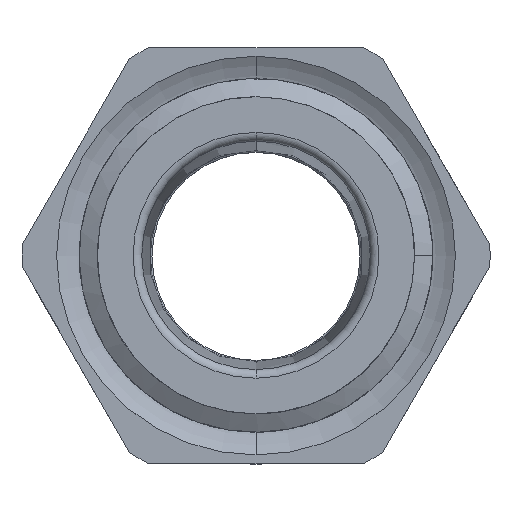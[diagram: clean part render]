
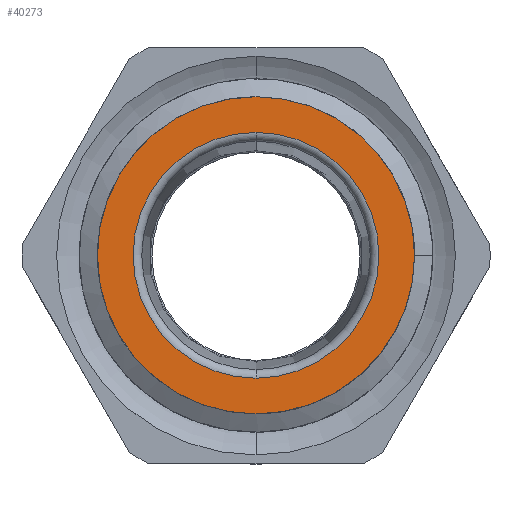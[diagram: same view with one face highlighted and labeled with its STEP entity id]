
A CAD part, top view. The second image highlights one B-rep face of the part: STEP entity #40273.
In plain terms, the highlighted planar face has unit normal (0, 0, 1) as drawn and (0, -1, 0) by its records, which use the part's own axes.
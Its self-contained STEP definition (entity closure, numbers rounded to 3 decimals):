
#1569 = CARTESIAN_POINT ( 'NONE',  ( 0., 0., 0. ) ) ;
#1757 = DIRECTION ( 'NONE',  ( 0., 0., -1. ) ) ;
#2033 = DIRECTION ( 'NONE',  ( 0., 0., -1. ) ) ;
#2469 = CARTESIAN_POINT ( 'NONE',  ( 9.15, 0., 0. ) ) ;
#3818 = CARTESIAN_POINT ( 'NONE',  ( 0., 0., -9.15 ) ) ;
#4026 = FACE_OUTER_BOUND ( 'NONE', #45805, .T. ) ;
#6335 = AXIS2_PLACEMENT_3D ( 'NONE', #1569, #27097, #2033 ) ;
#8886 = DIRECTION ( 'NONE',  ( 0., -1., 0. ) ) ;
#10047 = EDGE_CURVE ( 'NONE', #19152, #44446, #36415, .T. ) ;
#10337 = CARTESIAN_POINT ( 'NONE',  ( 0., 0., 0. ) ) ;
#12691 = DIRECTION ( 'NONE',  ( 0., -1., 0. ) ) ;
#12991 = AXIS2_PLACEMENT_3D ( 'NONE', #22987, #12691, #41085 ) ;
#13630 = DIRECTION ( 'NONE',  ( 0., -1., 0. ) ) ;
#13683 = ORIENTED_EDGE ( 'NONE', *, *, #10047, .F. ) ;
#13686 = CIRCLE ( 'NONE', #33649, 9.15 ) ;
#13869 = CIRCLE ( 'NONE', #36386, 9.15 ) ;
#14572 = VERTEX_POINT ( 'NONE', #2469 ) ;
#17681 = DIRECTION ( 'NONE',  ( 0., -1., 0. ) ) ;
#18006 = FACE_BOUND ( 'NONE', #27435, .T. ) ;
#18011 = CIRCLE ( 'NONE', #30290, 9.15 ) ;
#18030 = EDGE_CURVE ( 'NONE', #14572, #45406, #13686, .T. ) ;
#19152 = VERTEX_POINT ( 'NONE', #32409 ) ;
#21571 = DIRECTION ( 'NONE',  ( 0., 0., -1. ) ) ;
#22337 = ORIENTED_EDGE ( 'NONE', *, *, #28142, .T. ) ;
#22987 = CARTESIAN_POINT ( 'NONE',  ( 7.09, 0., 0. ) ) ;
#24361 = DIRECTION ( 'NONE',  ( 0., 0., -1. ) ) ;
#27097 = DIRECTION ( 'NONE',  ( 0., -1., 0. ) ) ;
#27435 = EDGE_LOOP ( 'NONE', ( #13683, #32434 ) ) ;
#27616 = DIRECTION ( 'NONE',  ( 0., -1., 0. ) ) ;
#28142 = EDGE_CURVE ( 'NONE', #41467, #14572, #18011, .T. ) ;
#30290 = AXIS2_PLACEMENT_3D ( 'NONE', #40744, #8886, #1757 ) ;
#32118 = EDGE_CURVE ( 'NONE', #45406, #41467, #13869, .T. ) ;
#32409 = CARTESIAN_POINT ( 'NONE',  ( 0., 0., -7.09 ) ) ;
#32434 = ORIENTED_EDGE ( 'NONE', *, *, #42194, .F. ) ;
#33649 = AXIS2_PLACEMENT_3D ( 'NONE', #10337, #17681, #21571 ) ;
#34042 = ORIENTED_EDGE ( 'NONE', *, *, #18030, .T. ) ;
#34924 = CARTESIAN_POINT ( 'NONE',  ( 0., 0., 7.09 ) ) ;
#35000 = CARTESIAN_POINT ( 'NONE',  ( 0., 0., 0. ) ) ;
#36386 = AXIS2_PLACEMENT_3D ( 'NONE', #42152, #27616, #24361 ) ;
#36415 = CIRCLE ( 'NONE', #6335, 7.09 ) ;
#38133 = DIRECTION ( 'NONE',  ( 0., 0., -1. ) ) ;
#39640 = CIRCLE ( 'NONE', #40805, 7.09 ) ;
#40273 = ADVANCED_FACE ( 'NONE', ( #4026, #18006 ), #44664, .T. ) ;
#40744 = CARTESIAN_POINT ( 'NONE',  ( 0., 0., 0. ) ) ;
#40805 = AXIS2_PLACEMENT_3D ( 'NONE', #35000, #13630, #38133 ) ;
#41085 = DIRECTION ( 'NONE',  ( 0., 0., -1. ) ) ;
#41249 = CARTESIAN_POINT ( 'NONE',  ( 0., 0., 9.15 ) ) ;
#41467 = VERTEX_POINT ( 'NONE', #3818 ) ;
#42152 = CARTESIAN_POINT ( 'NONE',  ( 0., 0., 0. ) ) ;
#42194 = EDGE_CURVE ( 'NONE', #44446, #19152, #39640, .T. ) ;
#44446 = VERTEX_POINT ( 'NONE', #34924 ) ;
#44664 = PLANE ( 'NONE',  #12991 ) ;
#45406 = VERTEX_POINT ( 'NONE', #41249 ) ;
#45805 = EDGE_LOOP ( 'NONE', ( #34042, #45897, #22337 ) ) ;
#45897 = ORIENTED_EDGE ( 'NONE', *, *, #32118, .T. ) ;
